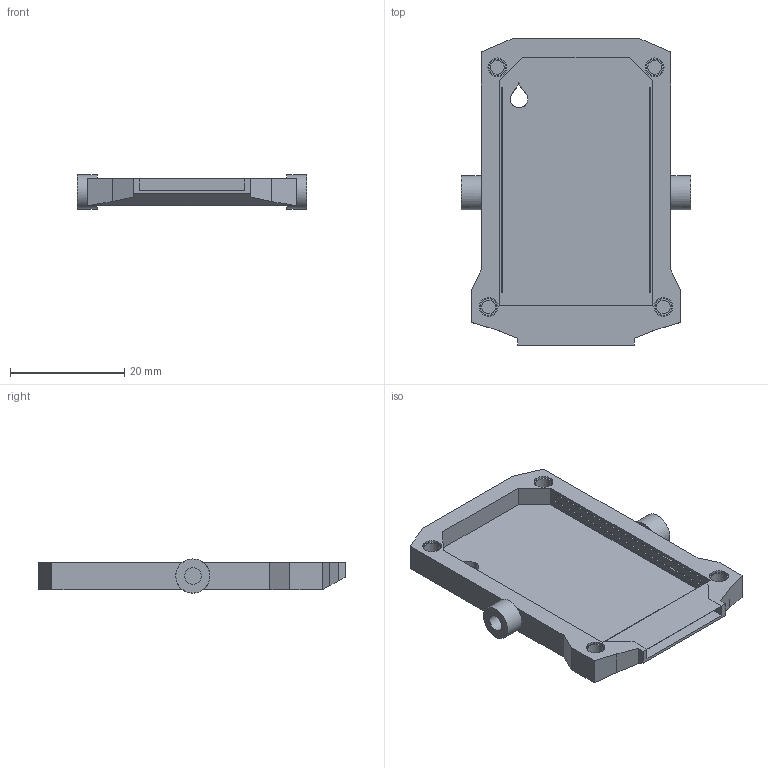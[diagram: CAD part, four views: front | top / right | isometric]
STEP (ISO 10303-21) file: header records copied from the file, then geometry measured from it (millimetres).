
FILE_DESCRIPTION(('Open CASCADE Model'),'2;1');
FILE_NAME('Open CASCADE Shape Model','2026-09-30T23:04:27',('Author'),( 'Open CASCADE'),'Open CASCADE STEP processor 8.0','Open CASCADE 8.0' ,'Unknown');
FILE_SCHEMA(('AP242_MANAGED_MODEL_BASED_3D_ENGINEERING_MIM_LF {1 0 10303 442 1 1 4 }' ));
Length unit declared in the file: millimetre
Products named in the file (1): Open CASCADE STEP translator 8.0 3
Bounding box: 40.2 x 53.7 x 6 mm (x, y, z)
Volume: 4031.1 mm3; surface area: 5406.6 mm2
Topology: 1 solids, 1 shells, 88 faces, 197 edges, 128 vertices
Faces by surface type: plane 68, cylinder 16, extrusion 4
Full cylindrical faces by diameter (mm): 2.4 x4, 2.9 x6, 3.3 x4, 6 x2
Entity records: 5902 total; most frequent: CARTESIAN_POINT 1868, DIRECTION 727, VECTOR 439, LINE 435, ORIENTED_EDGE 394, PCURVE 394, DEFINITIONAL_REPRESENTATION 394, EDGE_CURVE 197
